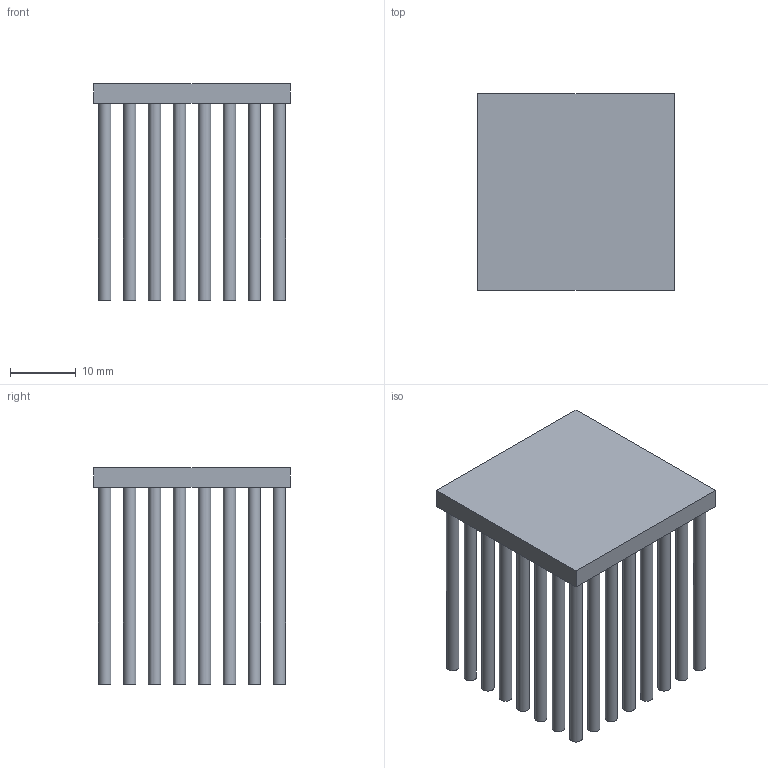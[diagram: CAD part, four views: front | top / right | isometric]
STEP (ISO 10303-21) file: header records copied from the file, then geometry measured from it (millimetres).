
FILE_DESCRIPTION(/* description */ (''),/* implementation_level */ '2;1');
FILE_NAME(/* name */ 'PB3030-B3-H33-P64.stp',/* time_stamp */ '2013-12-30T13:47:22+08:00',/* author */ (''),/* organization */ (''),/* preprocessor_version */ 'ST-DEVELOPER v14',/* originating_system */ 'SIEMENS PLM Software NX 8.0',/* authorisation */ '');
FILE_SCHEMA (('CONFIG_CONTROL_DESIGN'));
Length unit declared in the file: millimetre
Products named in the file (1): PB3030-P64
Bounding box: 30 x 30 x 33 mm (x, y, z)
Volume: 8143.8 mm3; surface area: 13620.5 mm2
Topology: 1 solids, 1 shells, 134 faces, 204 edges, 136 vertices
Faces by surface type: plane 70, cylinder 64
Full cylindrical faces by diameter (mm): 1.9 x64
Entity records: 2800 total; most frequent: DIRECTION 538, CARTESIAN_POINT 411, ORIENTED_EDGE 280, AXIS2_PLACEMENT_3D 263, EDGE_LOOP 262, FACE_BOUND 193, EDGE_CURVE 140, VERTEX_POINT 136
